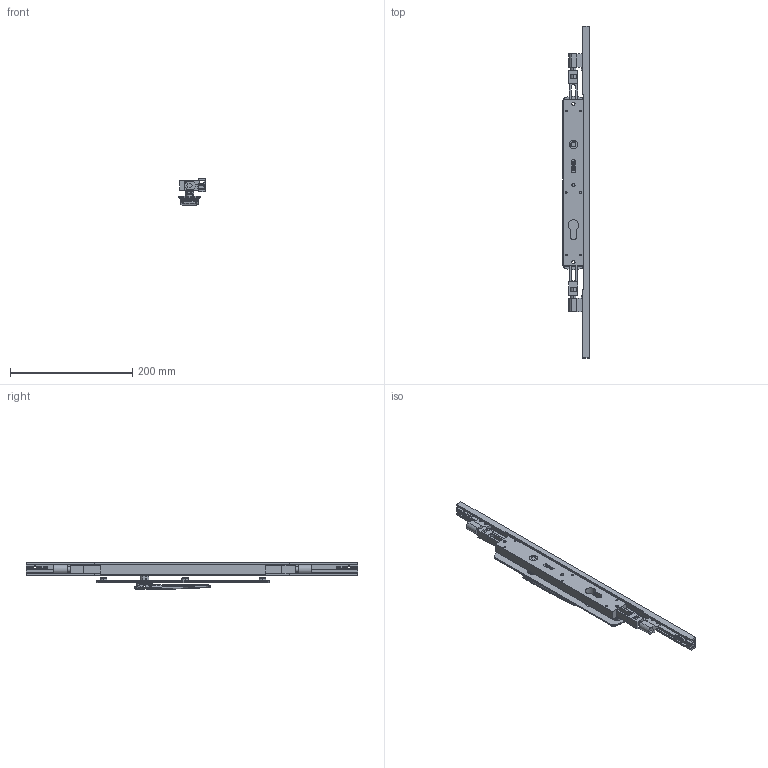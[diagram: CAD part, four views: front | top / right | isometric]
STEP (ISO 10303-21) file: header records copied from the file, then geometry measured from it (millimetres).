
FILE_DESCRIPTION (( 'STEP AP214' ), '1' );
FILE_NAME ('TPL-W-APC-606-L 28Oct2024.STEP', '2024-10-28T01:51:51', ( '' ), ( '' ), 'SwSTEP 2.0', 'SolidWorks 2023', '' );
FILE_SCHEMA (( 'AUTOMOTIVE_DESIGN' ));
Length unit declared in the file: millimetre
Products named in the file (18): TPL-W-APC-606-L 28Oct2024; Copy of TPLGen2 lock body keyed^Copy of TPLGen2 lock body keyed assembly_TPL-W-APC-106 18Oct2024; Copy of LKC-505 Swing handle zinc - simplified^Copy of TPGen2 handle non-keyed long zinc - simplified_TPL-W-APC-106 18Oct2024; Copy of TPGen2 handle non-keyed long zinc - simplified^TPL-W-APC-106 18Oct2024_Vertical; Bolt.step; Copy of LKC-586 Spindle square 8mm with M4 hole^Copy of TPGen2 handle non-keyed long zinc - simplified_TPL-W-APC-106 18Oct2024_25mm; Copy of LKC-531 Lock twinpoint transmission rod wood system^TPL-W-APC-106 18Oct2024_Standard Range (588.7mm); Copy of COV-115-A Cover A suit TPLGen2 standard range AU with hinge holes^TPL-W-APC-106 18Oct2024_1335mm; Adapter C - simplfied^TPL-W-APC-106 18Oct2024; Copy of COV-115-C Cover C suit TPLGen2 standard range AU^TPL-W-APC-106 18Oct2024; Copy of TPLGen2 push rod - simplified^Copy of TPLGen2 lock body keyed assembly_TPL-W-APC-106 18Oct2024_Female thread M10; Copy of COV-115-B Cover B suit TPLGen2 standard range AU with hinge holes^TPL-W-APC-106 18Oct2024_2870mm; Copy of LKC-583 Escutcheon plate unkeyed 285mm long zinc - simplified^Copy of TPGen2 handle non-keyed long zinc - simplified_TPL-W-APC-106 18Oct2024; Copy of LKC-585 Rotator body zinc^Copy of TPGen2 handle non-keyed long zinc - simplified_TPL-W-APC-106 18Oct2024; Copy of LKC-584 Pivot body zinc - simplified^Copy of TPGen2 handle non-keyed long zinc - simplified_TPL-W-APC-106 18Oct2024; Copy of Copy of LKC-531 Lock twinpoint transmission rod wood system^TPL-W-APC-106 18Oct2024_Standard Range 2891.7mm; Copy of TPLGen2 lock body keyed assembly^TPL-W-APC-106 18Oct2024_Bolts extended; Adapter D - simplfied^TPL-W-APC-106 18Oct2024
Assembly tree (15 placements, depth 3):
  TPL-W-APC-606-L 28Oct2024
    Copy of TPLGen2 lock body keyed assembly^TPL-W-APC-106 18Oct2024_Bolts extended
      Copy of TPLGen2 lock body keyed^Copy of TPLGen2 lock body keyed assembly_TPL-W-APC-106 18Oct2024
      Copy of TPLGen2 push rod - simplified^Copy of TPLGen2 lock body keyed assembly_TPL-W-APC-106 18Oct2024_Female thread M10  x2
    Copy of TPGen2 handle non-keyed long zinc - simplified^TPL-W-APC-106 18Oct2024_Vertical
      Copy of LKC-583 Escutcheon plate unkeyed 285mm long zinc - simplified^Copy of TPGen2 handle non-keyed long zinc - simplified_TPL-W-APC-106 18Oct2024
      Copy of LKC-505 Swing handle zinc - simplified^Copy of TPGen2 handle non-keyed long zinc - simplified_TPL-W-APC-106 18Oct2024
      Copy of LKC-585 Rotator body zinc^Copy of TPGen2 handle non-keyed long zinc - simplified_TPL-W-APC-106 18Oct2024
      Copy of LKC-586 Spindle square 8mm with M4 hole^Copy of TPGen2 handle non-keyed long zinc - simplified_TPL-W-APC-106 18Oct2024_25mm
      Copy of LKC-584 Pivot body zinc - simplified^Copy of TPGen2 handle non-keyed long zinc - simplified_TPL-W-APC-106 18Oct2024
    Copy of LKC-531 Lock twinpoint transmission rod wood system^TPL-W-APC-106 18Oct2024_Standard Range (588.7mm)
    Copy of Copy of LKC-531 Lock twinpoint transmission rod wood system^TPL-W-APC-106 18Oct2024_Standard Range 2891.7mm
    Copy of COV-115-C Cover C suit TPLGen2 standard range AU^TPL-W-APC-106 18Oct2024
    Adapter C - simplfied^TPL-W-APC-106 18Oct2024
    Adapter D - simplfied^TPL-W-APC-106 18Oct2024
  Bolt.step
  Copy of COV-115-A Cover A suit TPLGen2 standard range AU with hinge holes^TPL-W-APC-106 18Oct2024_1335mm
  Copy of COV-115-B Cover B suit TPLGen2 standard range AU with hinge holes^TPL-W-APC-106 18Oct2024_2870mm
Bounding box: 43.5 x 544 x 43.26 mm (x, y, z)
Volume: 263043.3 mm3; surface area: 128712.6 mm2
Topology: 13 solids, 13 shells, 881 faces, 2169 edges, 1348 vertices
Faces by surface type: plane 306, bspline 241, cylinder 204, cone 70, torus 52, sphere 8
Entity records: 31606 total; most frequent: CARTESIAN_POINT 12733, ORIENTED_EDGE 4146, DIRECTION 3383, EDGE_CURVE 2073, VERTEX_POINT 1288, AXIS2_PLACEMENT_3D 1244, EDGE_LOOP 941, LINE 895
